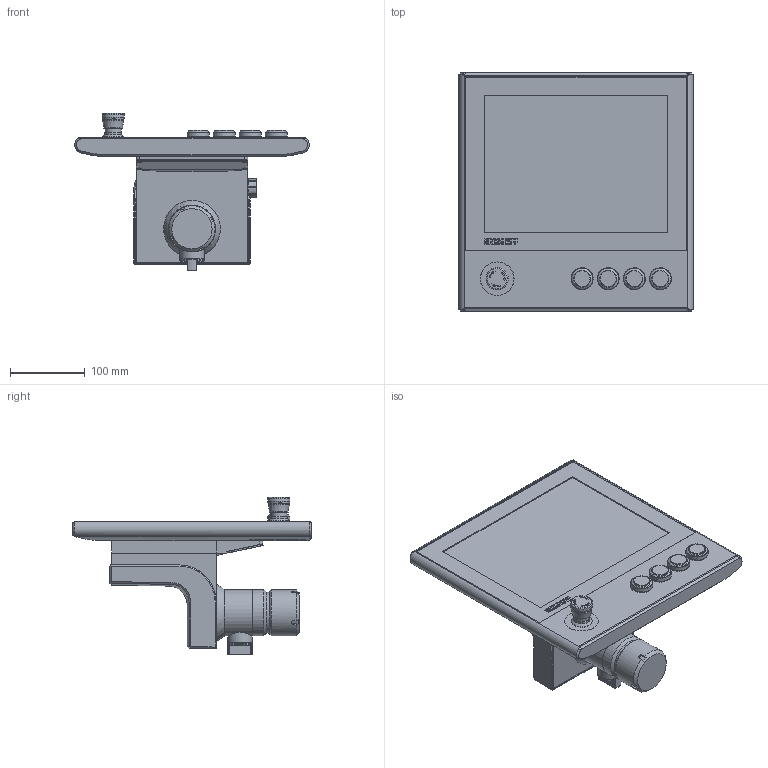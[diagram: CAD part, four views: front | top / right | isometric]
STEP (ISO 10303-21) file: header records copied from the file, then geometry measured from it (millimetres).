
FILE_DESCRIPTION(/* description */ (''),/* implementation_level */ '2;1');
FILE_NAME(/* name */ 'X:\0-inventor\0-3d-Teile\PC-Compo\solids\CP3xxx\0-Ausgabe\CP3912-G022-0010-M753-E274.stp',/* time_stamp */ '2015-11-23T10:40:18+01:00',/* author */ ('christiankreuzer'),/* organization */ ('Design-AG'),/* preprocessor_version */ 'ST-DEVELOPER v16.1',/* originating_system */ 'Autodesk Inventor 2016',/* authorisation */ '');
FILE_SCHEMA (('AUTOMOTIVE_DESIGN { 1 0 10303 214 3 1 1 }'));
Products named in the file (1): CP3912-G022-0010-M753-E274-Step
Bounding box: 314.63 x 320.5 x 211.49 mm (x, y, z)
Volume: 4436218.6 mm3; surface area: 595935.7 mm2
Topology: 11 solids, 29 shells, 1552 faces, 4016 edges, 2602 vertices
Faces by surface type: plane 913, cylinder 321, cone 138, bspline 103, torus 67, sphere 10
Full cylindrical faces by diameter (mm): 3 x12, 3.4 x12, 4.917 x1, 6 x12, 20.917 x1, 21.3 x1, 21.5 x1, 22 x1, 22.2 x1, 22.55 x3, 22.7 x4, 22.8 x1, 23.028 x4, 23.7 x4, 24 x1, 24.8 x4, 25 x1, 25.8 x1, 26.7 x4, 26.8 x1, 28 x1, 28.6 x4, 33 x1, 45 x1, 45.2 x1, 55 x1, 62 x3
Entity records: 50225 total; most frequent: CARTESIAN_POINT 12628, ORIENTED_EDGE 7330, DIRECTION 7129, EDGE_CURVE 3665, VERTEX_POINT 2476, LINE 2381, VECTOR 2381, AXIS2_PLACEMENT_3D 2374
